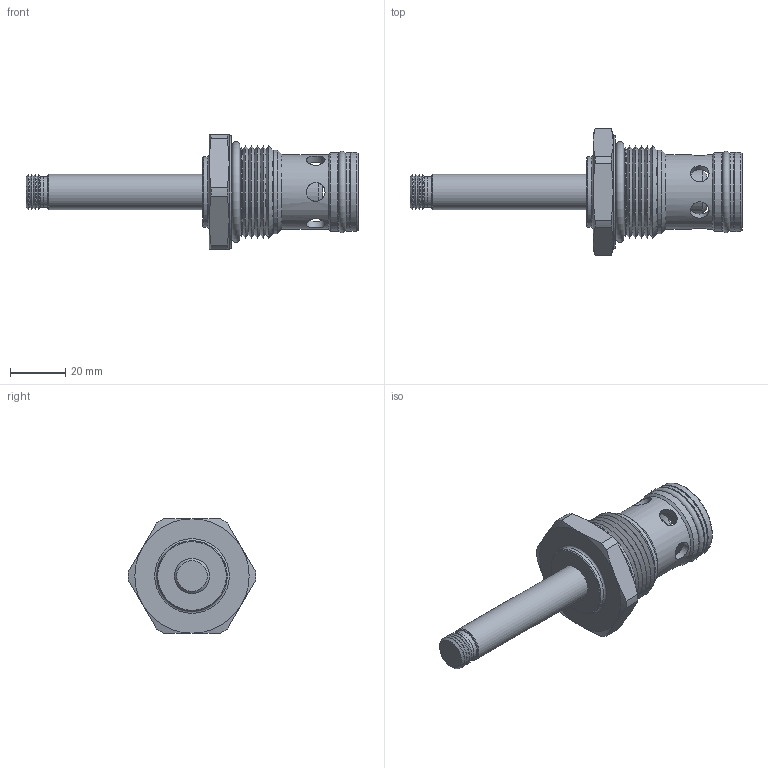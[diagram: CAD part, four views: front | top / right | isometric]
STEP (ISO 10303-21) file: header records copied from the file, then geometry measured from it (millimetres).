
FILE_DESCRIPTION(/* description */ ('SJ-S2C-00'),/* implementation_level */ '2;1');
FILE_NAME(/* name */ 'P:\EARS\EAR16xx\EAR1683 - catalog pages changes\Group1_Distribution 11_22_22\RTeck Agency_Tom\_step files\HSJS2C00.stp',/* time_stamp */ '2023-01-03T13:16:27-06:00',/* author */ ('Michael'),/* organization */ (''),/* preprocessor_version */ 'ST-DEVELOPER v17.2',/* originating_system */ 'Autodesk Inventor 2019',/* authorisation */ '');
FILE_SCHEMA (('AUTOMOTIVE_DESIGN { 1 0 10303 214 3 1 1 }'));
Length unit declared in the file: inch
Products named in the file (1): 87200001
Bounding box: 119.84 x 46.01 x 41.27 mm (x, y, z)
Volume: 47124.7 mm3; surface area: 15778.9 mm2
Topology: 4 solids, 4 shells, 119 faces, 330 edges, 227 vertices
Faces by surface type: cone 41, cylinder 39, plane 29, torus 10
Full cylindrical faces by diameter (mm): 0.813 x1, 6.756 x6, 7.899 x2, 8.382 x1, 10.998 x1, 11.113 x1, 12.675 x1, 14.986 x1, 16.002 x1, 18.796 x1, 19.094 x1, 24.054 x1, 24.105 x1, 25.4 x1, 26.924 x1, 28.423 x1, 28.524 x2, 30.15 x1, 30.353 x1, 40.615 x1
Entity records: 4706 total; most frequent: CARTESIAN_POINT 1382, DIRECTION 691, ORIENTED_EDGE 660, EDGE_CURVE 330, AXIS2_PLACEMENT_3D 311, VERTEX_POINT 227, CIRCLE 191, EDGE_LOOP 145
